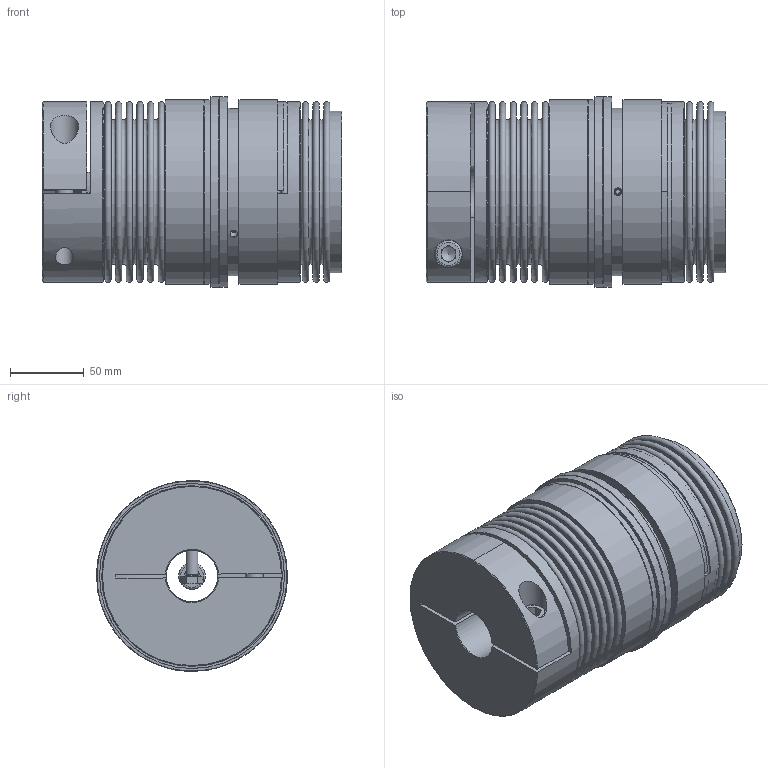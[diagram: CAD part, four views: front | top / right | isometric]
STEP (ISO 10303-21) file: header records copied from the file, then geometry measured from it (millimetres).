
FILE_DESCRIPTION( ( 'Unknown' ), '1' );
FILE_NAME( 'C:/Dokumente und Einstellungen/SKarpstein/Desktop/Korrigierte 3D Modelle/KBK-BKI-500-151.stp', 'Unknown', ( 'Unknown' ), ( 'Unknown' ), 'XStep 1.0', 'Unknown', ' ' );
FILE_SCHEMA( ( 'automotive_design' ) );
Length unit declared in the file: millimetre
Products named in the file (10): Assem1; Stellring 500; Druckring 500; KBK L-I-500 Grundkörper; Konusbuchse 500; din_en_24017_m8x30_1; Flansch BK500; BL500_Standard_2; KN500_Standard_4; Socket Head Cap Screw_DIN_DIN 912 M12 x 55 --- 55N_4
Bounding box: 202.3 x 129 x 129 mm (x, y, z)
Volume: 1934786.2 mm3; surface area: 640772.2 mm2
Topology: 23 solids, 23 shells, 572 faces, 1188 edges, 767 vertices
Faces by surface type: plane 265, cylinder 126, cone 122, torus 59
Full cylindrical faces by diameter (mm): 3.242 x6, 5.1 x6, 5.2 x6, 6.647 x18, 8 x7, 9 x12, 11.63 x7, 12 x4, 12.5 x2, 18 x2, 19 x2, 35 x6, 62 x2, 62.6 x2, 65 x4, 80 x2, 86 x4, 89 x2, 90 x2, 104.5 x2, 107.7 x4, 108.9 x4, 113 x2, 114 x2, 122 x2, 125 x4, 129 x2
Entity records: 6322 total; most frequent: CARTESIAN_POINT 1480, DIRECTION 1009, ORIENTED_EDGE 674, AXIS2_PLACEMENT_3D 463, EDGE_LOOP 422, EDGE_CURVE 337, FACE_OUTER_BOUND 310, VERTEX_POINT 278
